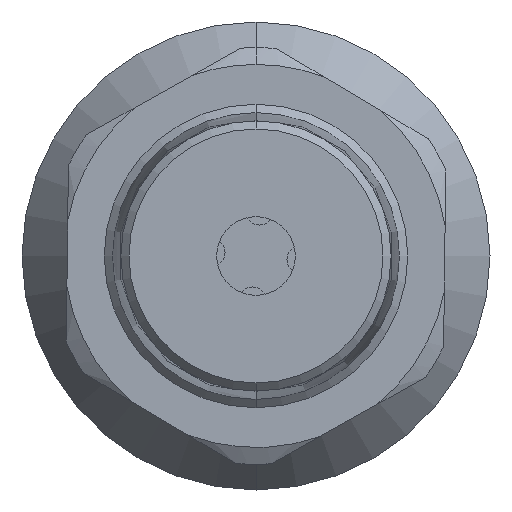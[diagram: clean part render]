
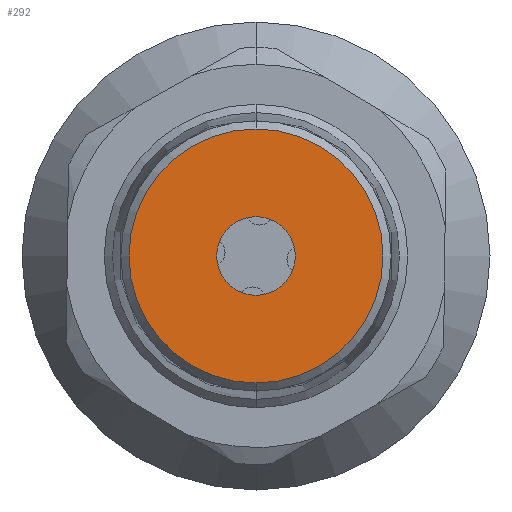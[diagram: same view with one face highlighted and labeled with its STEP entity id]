
A CAD part, front view. The second image highlights one B-rep face of the part: STEP entity #292.
In plain terms, the highlighted planar face has unit normal (0, -1, 0).
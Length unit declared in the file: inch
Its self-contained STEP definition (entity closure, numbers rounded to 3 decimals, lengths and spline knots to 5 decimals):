
#94 = EDGE_LOOP ( 'NONE', ( #9141, #15165 ) ) ;
#292 = ADVANCED_FACE ( 'NONE', ( #12469, #12391 ), #8851, .F. ) ;
#343 = AXIS2_PLACEMENT_3D ( 'NONE', #13841, #1830, #6752 ) ;
#883 = CARTESIAN_POINT ( 'NONE',  ( 0., 0., 0.31791 ) ) ;
#1830 = DIRECTION ( 'NONE',  ( 0., 1., 0. ) ) ;
#2140 = DIRECTION ( 'NONE',  ( 0., -1., 0. ) ) ;
#2156 = DIRECTION ( 'NONE',  ( 0., -1., 0. ) ) ;
#2929 = AXIS2_PLACEMENT_3D ( 'NONE', #10014, #7850, #5449 ) ;
#3028 = EDGE_CURVE ( 'NONE', #6281, #5206, #14596, .T. ) ;
#3395 = AXIS2_PLACEMENT_3D ( 'NONE', #4296, #2156, #13853 ) ;
#3906 = CIRCLE ( 'NONE', #3395, 0.31791 ) ;
#4296 = CARTESIAN_POINT ( 'NONE',  ( 0., 0., 0. ) ) ;
#4352 = CARTESIAN_POINT ( 'NONE',  ( 0., 0., 0. ) ) ;
#4571 = AXIS2_PLACEMENT_3D ( 'NONE', #6569, #5557, #12363 ) ;
#4594 = ORIENTED_EDGE ( 'NONE', *, *, #3028, .T. ) ;
#4641 = CIRCLE ( 'NONE', #2929, 0.09843 ) ;
#4690 = CARTESIAN_POINT ( 'NONE',  ( 0., 0., 0.09843 ) ) ;
#5200 = CARTESIAN_POINT ( 'NONE',  ( 0., 0., -0.31791 ) ) ;
#5206 = VERTEX_POINT ( 'NONE', #5200 ) ;
#5382 = CARTESIAN_POINT ( 'NONE',  ( 0., 0., -0.09843 ) ) ;
#5449 = DIRECTION ( 'NONE',  ( 0., 0., 1. ) ) ;
#5557 = DIRECTION ( 'NONE',  ( 0., 1., 0. ) ) ;
#6281 = VERTEX_POINT ( 'NONE', #883 ) ;
#6569 = CARTESIAN_POINT ( 'NONE',  ( 0., 0., 0. ) ) ;
#6752 = DIRECTION ( 'NONE',  ( 0., 0., 1. ) ) ;
#7579 = ORIENTED_EDGE ( 'NONE', *, *, #12950, .T. ) ;
#7850 = DIRECTION ( 'NONE',  ( 0., 1., 0. ) ) ;
#8851 = PLANE ( 'NONE',  #343 ) ;
#9077 = DIRECTION ( 'NONE',  ( 0., 0., 1. ) ) ;
#9141 = ORIENTED_EDGE ( 'NONE', *, *, #11144, .T. ) ;
#9270 = CIRCLE ( 'NONE', #4571, 0.09843 ) ;
#9966 = EDGE_CURVE ( 'NONE', #13806, #11826, #9270, .T. ) ;
#10014 = CARTESIAN_POINT ( 'NONE',  ( 0., 0., 0. ) ) ;
#10890 = AXIS2_PLACEMENT_3D ( 'NONE', #4352, #2140, #9077 ) ;
#11144 = EDGE_CURVE ( 'NONE', #11826, #13806, #4641, .T. ) ;
#11826 = VERTEX_POINT ( 'NONE', #4690 ) ;
#12363 = DIRECTION ( 'NONE',  ( 0., 0., 1. ) ) ;
#12391 = FACE_BOUND ( 'NONE', #94, .T. ) ;
#12469 = FACE_OUTER_BOUND ( 'NONE', #12581, .T. ) ;
#12581 = EDGE_LOOP ( 'NONE', ( #4594, #7579 ) ) ;
#12950 = EDGE_CURVE ( 'NONE', #5206, #6281, #3906, .T. ) ;
#13806 = VERTEX_POINT ( 'NONE', #5382 ) ;
#13841 = CARTESIAN_POINT ( 'NONE',  ( 0.09843, 0., 0. ) ) ;
#13853 = DIRECTION ( 'NONE',  ( 0., 0., 1. ) ) ;
#14596 = CIRCLE ( 'NONE', #10890, 0.31791 ) ;
#15165 = ORIENTED_EDGE ( 'NONE', *, *, #9966, .T. ) ;
